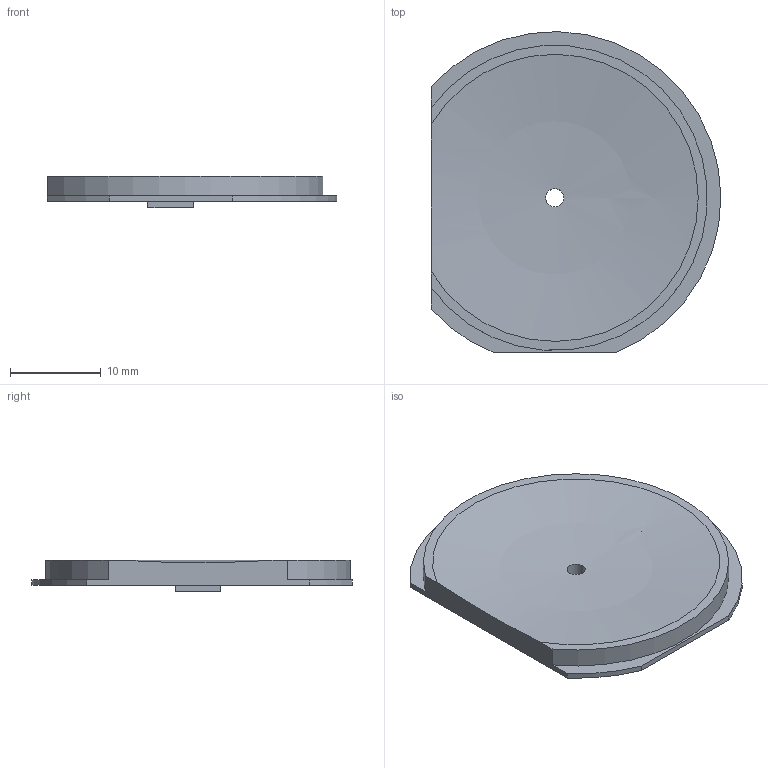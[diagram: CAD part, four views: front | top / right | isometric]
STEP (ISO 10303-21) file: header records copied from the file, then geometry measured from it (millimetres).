
FILE_DESCRIPTION(('Open CASCADE Model'),'2;1');
FILE_NAME('Open CASCADE Shape Model','2026-09-06T11:31:19',('Author'),( 'Open CASCADE'),'Open CASCADE STEP processor 7.7','Open CASCADE 7.7' ,'Unknown');
FILE_SCHEMA(('AUTOMOTIVE_DESIGN { 1 0 10303 214 1 1 1 1 }'));
Length unit declared in the file: millimetre
Products named in the file (1): Open CASCADE STEP translator 7.7 7
Bounding box: 31.9 x 35.3 x 3.45 mm (x, y, z)
Volume: 1991.2 mm3; surface area: 2276 mm2
Topology: 1 solids, 1 shells, 21 faces, 47 edges, 31 vertices
Faces by surface type: plane 13, cylinder 7, sphere 1
Full cylindrical faces by diameter (mm): 2 x4
Entity records: 1273 total; most frequent: CARTESIAN_POINT 283, DIRECTION 192, LINE 106, VECTOR 106, ORIENTED_EDGE 94, PCURVE 94, DEFINITIONAL_REPRESENTATION 94, EDGE_CURVE 47
